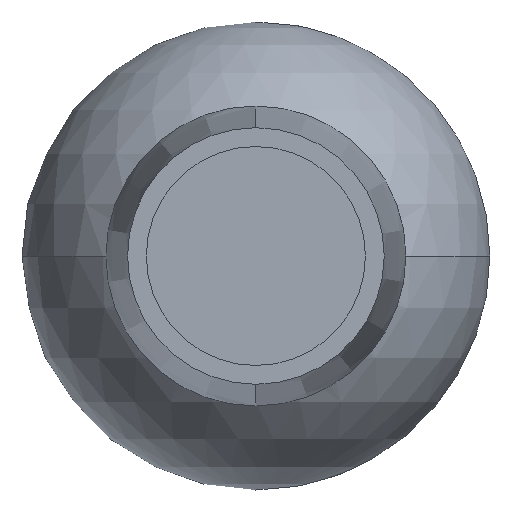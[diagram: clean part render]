
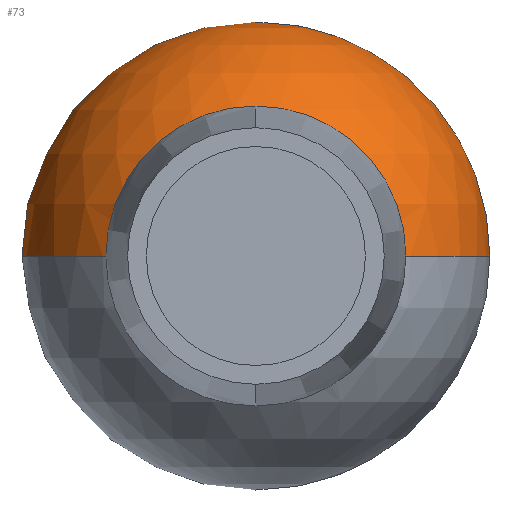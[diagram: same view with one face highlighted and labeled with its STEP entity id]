
A CAD part, front view. The second image highlights one B-rep face of the part: STEP entity #73.
In plain terms, the highlighted spherical face has radius 12.484 mm.
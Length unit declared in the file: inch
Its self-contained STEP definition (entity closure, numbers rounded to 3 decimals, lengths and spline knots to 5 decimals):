
#5 = VERTEX_POINT ( 'NONE', #93 ) ;
#14 = ORIENTED_EDGE ( 'NONE', *, *, #317, .F. ) ;
#21 = VERTEX_POINT ( 'NONE', #267 ) ;
#34 = EDGE_CURVE ( 'NONE', #21, #471, #362, .T. ) ;
#51 = EDGE_LOOP ( 'NONE', ( #14, #71, #278, #77, #352 ) ) ;
#63 = VERTEX_POINT ( 'NONE', #218 ) ;
#68 = VERTEX_POINT ( 'NONE', #229 ) ;
#71 = ORIENTED_EDGE ( 'NONE', *, *, #34, .T. ) ;
#73 = ADVANCED_FACE ( 'NONE', ( #243 ), #244, .T. ) ;
#76 = EDGE_CURVE ( 'NONE', #63, #5, #262, .T. ) ;
#77 = ORIENTED_EDGE ( 'NONE', *, *, #382, .T. ) ;
#93 = CARTESIAN_POINT ( 'NONE',  ( 0.225, 0.43698, 0. ) ) ;
#133 = CIRCLE ( 'NONE', #134, 0.4915 ) ;
#134 = AXIS2_PLACEMENT_3D ( 'NONE', #135, #136, #137 ) ;
#135 = CARTESIAN_POINT ( 'NONE',  ( 0., 0., 0. ) ) ;
#136 = DIRECTION ( 'NONE',  ( 0., 0., -1. ) ) ;
#137 = DIRECTION ( 'NONE',  ( -1., 0., 0. ) ) ;
#185 = CIRCLE ( 'NONE', #186, 0.4915 ) ;
#186 = AXIS2_PLACEMENT_3D ( 'NONE', #187, #188, #189 ) ;
#187 = CARTESIAN_POINT ( 'NONE',  ( 0., 0., 0. ) ) ;
#188 = DIRECTION ( 'NONE',  ( 0., 0., 1. ) ) ;
#189 = DIRECTION ( 'NONE',  ( 1., 0., 0. ) ) ;
#218 = CARTESIAN_POINT ( 'NONE',  ( -0.225, 0.43698, 0. ) ) ;
#229 = CARTESIAN_POINT ( 'NONE',  ( 0.257, -0.41895, 0. ) ) ;
#243 = FACE_OUTER_BOUND ( 'NONE', #51, .T. ) ;
#244 = SPHERICAL_SURFACE ( 'NONE', #245, 0.4915 ) ;
#245 = AXIS2_PLACEMENT_3D ( 'NONE', #246, #247, #248 ) ;
#246 = CARTESIAN_POINT ( 'NONE',  ( 0., 0., 0. ) ) ;
#247 = DIRECTION ( 'NONE',  ( 0., 0., -1. ) ) ;
#248 = DIRECTION ( 'NONE',  ( 1., 0., 0. ) ) ;
#262 = CIRCLE ( 'NONE', #263, 0.225 ) ;
#263 = AXIS2_PLACEMENT_3D ( 'NONE', #264, #265, #266 ) ;
#264 = CARTESIAN_POINT ( 'NONE',  ( 0., 0.43698, 0. ) ) ;
#265 = DIRECTION ( 'NONE',  ( 0., 1., 0. ) ) ;
#266 = DIRECTION ( 'NONE',  ( 0., 0., 1. ) ) ;
#267 = CARTESIAN_POINT ( 'NONE',  ( -0.257, -0.41895, 0. ) ) ;
#273 = CARTESIAN_POINT ( 'NONE',  ( 0., -0.41895, 0.257 ) ) ;
#278 = ORIENTED_EDGE ( 'NONE', *, *, #478, .T. ) ;
#317 = EDGE_CURVE ( 'NONE', #21, #63, #133, .T. ) ;
#352 = ORIENTED_EDGE ( 'NONE', *, *, #76, .F. ) ;
#356 = CIRCLE ( 'NONE', #357, 0.257 ) ;
#357 = AXIS2_PLACEMENT_3D ( 'NONE', #358, #359, #360 ) ;
#358 = CARTESIAN_POINT ( 'NONE',  ( 0., -0.41895, 0. ) ) ;
#359 = DIRECTION ( 'NONE',  ( 0., 1., 0. ) ) ;
#360 = DIRECTION ( 'NONE',  ( 0., 0., 1. ) ) ;
#362 = CIRCLE ( 'NONE', #363, 0.257 ) ;
#363 = AXIS2_PLACEMENT_3D ( 'NONE', #364, #365, #366 ) ;
#364 = CARTESIAN_POINT ( 'NONE',  ( 0., -0.41895, 0. ) ) ;
#365 = DIRECTION ( 'NONE',  ( 0., 1., 0. ) ) ;
#366 = DIRECTION ( 'NONE',  ( 0., 0., 1. ) ) ;
#382 = EDGE_CURVE ( 'NONE', #68, #5, #185, .T. ) ;
#471 = VERTEX_POINT ( 'NONE', #273 ) ;
#478 = EDGE_CURVE ( 'NONE', #471, #68, #356, .T. ) ;
